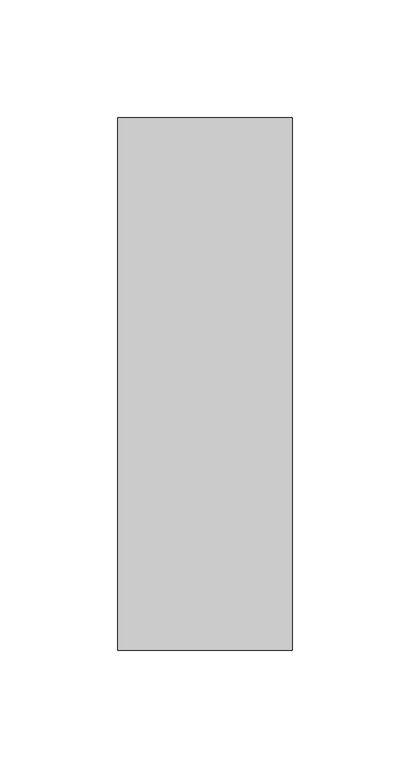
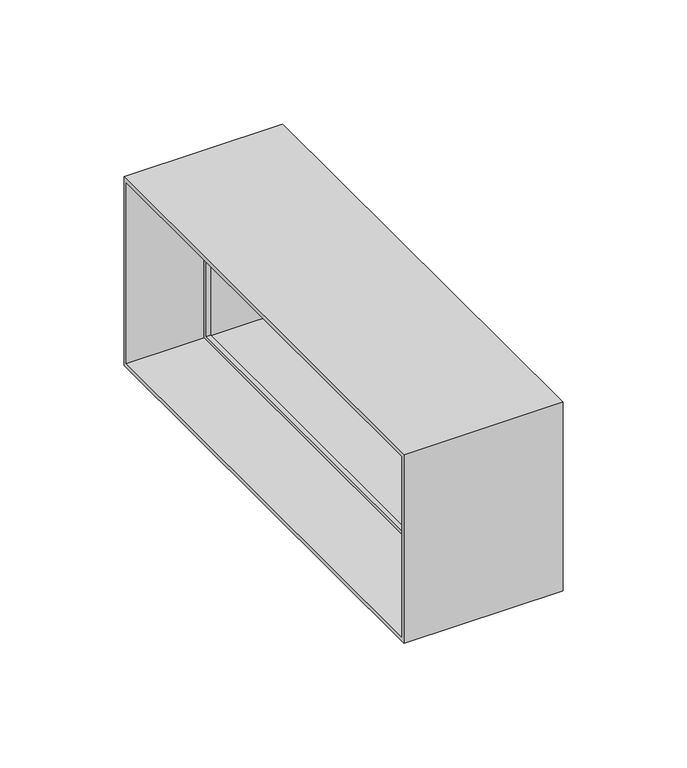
"""IFC4 building model written with IfcOpenShell, lengths in millimetres: proxy geometry, 10811360_D_DFK-V : 28996389_D_10811360_DFK-V."""

from ifc_helpers import new_model, si_unit, frame, origin, place, context, project, spatial, polyline, outline, extrude, source, transform, mapped, element, save


def specialty_equipment_1c8cee5e(model_context):
    return source(origin(), model_context, "Body", "SweptSolid", [
        extrude(outline(polyline([(-113.0, 46.5), (113.0, 46.5), (113.0, -46.5), (-113.0, -46.5), (-113.0, 46.5)]), holes=[polyline([(111.0, 44.5), (-111.0, 44.5), (-111.0, -44.5), (111.0, -44.5), (111.0, 44.5)])]), frame((0.0, 0.0, 0.0), z_axis=(1.0, 0.0, 0.0), x_axis=(0.0, 1.0, 0.0)), (0.0, 0.0, 1.0), 74.0),
        extrude(outline(polyline([(111.0, 44.5), (111.0, -44.5), (-111.0, -44.5), (-111.0, 44.5), (111.0, 44.5)]), holes=[polyline([(109.0, 42.5), (-109.0, 42.5), (-109.0, -42.5), (109.0, -42.5), (109.0, 42.5)])]), frame((36.0, 0.0, 0.0), z_axis=(1.0, 0.0, 0.0), x_axis=(0.0, 1.0, 0.0)), (0.0, 0.0, 1.0), 2.0),
    ])


if __name__ == "__main__":
    model = new_model("IFC4")
    model_context = context("Model", 3, world=origin())
    ifc_project = project(units=[si_unit("LENGTHUNIT", "METRE", prefix="MILLI")], contexts=[model_context])
    site = spatial("IfcSite", under=ifc_project)
    building = spatial("IfcBuilding", under=site)
    placement = place(None, origin())
    specialty_equipment_shape = specialty_equipment_1c8cee5e(model_context)
    element("IfcBuildingElementProxy", 1, Name="10811360_D_DFK-V : 28996389_D_10811360_DFK-V", ObjectType="10811360_D_DFK-V : 28996389_D_10811360_DFK-V", at=placement, inside=building, context=model_context, shape_type="MappedRepresentation", body=[
        mapped(specialty_equipment_shape, transform((0.0, 0.0, 0.0), x_axis=(1.0, 0.0, 0.0), y_axis=(0.0, 1.0, 0.0), z_axis=(0.0, 0.0, 1.0))),
    ])
    save(model, "model.ifc")
